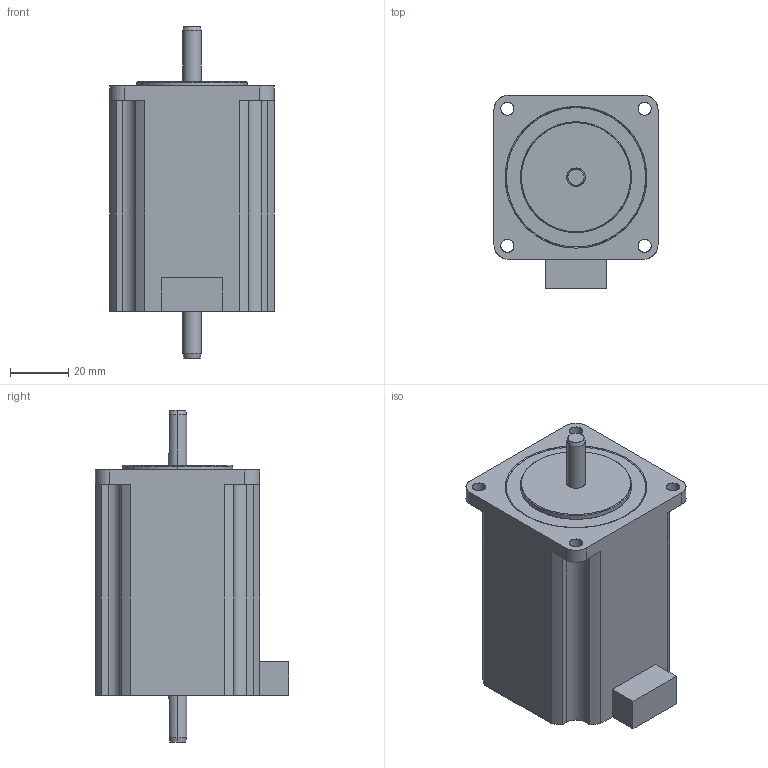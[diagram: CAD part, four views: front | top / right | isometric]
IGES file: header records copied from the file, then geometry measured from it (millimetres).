
Start section: SolidWorks IGES file using analytic representation for surfaces
Global section: file name: \\MCADserv\kari\7666\Plexmotion New 3D data\PMSA-U56D5D_3D\PMSA-U56D5D_3D.IGS; native system: SolidWorks 2014; preprocessor: SolidWorks 2014; author: user0016; date: 161115.135126; units: millimetre
Bounding box: 56.4 x 66.4 x 114.1 mm (x, y, z)
Surface area: 24036.9 mm2 (no closed solid volume)
Topology: 0 solids, 0 shells, 70 faces, 1108 edges, 1108 vertices
Faces by surface type: revolution 40, bspline 30
